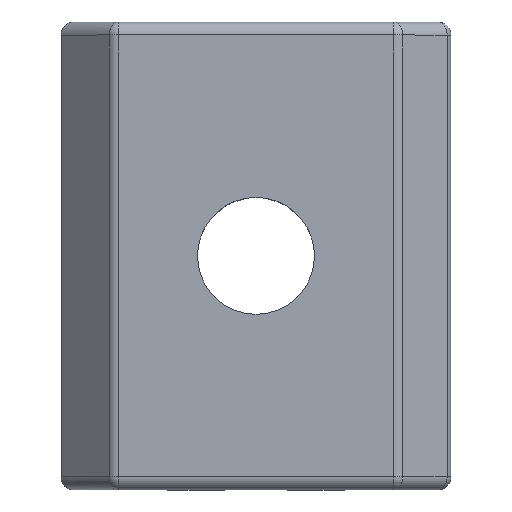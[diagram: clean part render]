
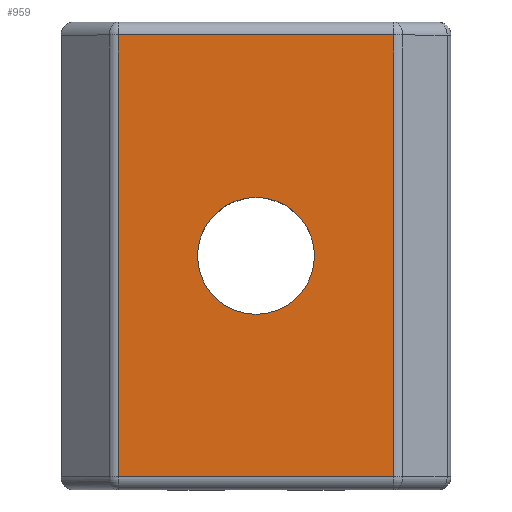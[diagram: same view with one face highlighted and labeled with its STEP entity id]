
A CAD part, top view. The second image highlights one B-rep face of the part: STEP entity #959.
In plain terms, the highlighted planar face has unit normal (0, 0, 1).
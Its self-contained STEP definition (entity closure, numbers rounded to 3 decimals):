
#15 = CARTESIAN_POINT ( 'NONE',  ( -1.6, -0.5, 1.528 ) ) ;
#34 = EDGE_LOOP ( 'NONE', ( #343, #93 ) ) ;
#48 = CARTESIAN_POINT ( 'NONE',  ( 6.15, -9., 1.528 ) ) ;
#92 = VERTEX_POINT ( 'NONE', #2165 ) ;
#93 = ORIENTED_EDGE ( 'NONE', *, *, #1110, .T. ) ;
#122 = DIRECTION ( 'NONE',  ( 1., 0., 0. ) ) ;
#191 = DIRECTION ( 'NONE',  ( 0., 0., 1. ) ) ;
#200 = CARTESIAN_POINT ( 'NONE',  ( 9.193, -18., 1.528 ) ) ;
#244 = VECTOR ( 'NONE', #713, 1000. ) ;
#343 = ORIENTED_EDGE ( 'NONE', *, *, #1506, .T. ) ;
#357 = LINE ( 'NONE', #915, #244 ) ;
#378 = VERTEX_POINT ( 'NONE', #1752 ) ;
#489 = EDGE_CURVE ( 'NONE', #652, #92, #357, .T. ) ;
#526 = CARTESIAN_POINT ( 'NONE',  ( -1.6, -18., 1.528 ) ) ;
#530 = ORIENTED_EDGE ( 'NONE', *, *, #1889, .T. ) ;
#547 = LINE ( 'NONE', #1560, #1799 ) ;
#563 = EDGE_CURVE ( 'NONE', #378, #1758, #1804, .T. ) ;
#599 = AXIS2_PLACEMENT_3D ( 'NONE', #663, #830, #122 ) ;
#652 = VERTEX_POINT ( 'NONE', #1374 ) ;
#663 = CARTESIAN_POINT ( 'NONE',  ( 3.9, -9., 1.528 ) ) ;
#681 = CARTESIAN_POINT ( 'NONE',  ( -1.393, -0.5, 1.528 ) ) ;
#713 = DIRECTION ( 'NONE',  ( 1., 0., 0. ) ) ;
#802 = ORIENTED_EDGE ( 'NONE', *, *, #1185, .T. ) ;
#830 = DIRECTION ( 'NONE',  ( 0., 0., -1. ) ) ;
#915 = CARTESIAN_POINT ( 'NONE',  ( -1.6, -17.5, 1.528 ) ) ;
#956 = DIRECTION ( 'NONE',  ( 0., 1., 0. ) ) ;
#959 = ADVANCED_FACE ( 'NONE', ( #1684, #1000 ), #1098, .T. ) ;
#1000 = FACE_BOUND ( 'NONE', #34, .T. ) ;
#1046 = CARTESIAN_POINT ( 'NONE',  ( 1.65, -9., 1.528 ) ) ;
#1076 = ORIENTED_EDGE ( 'NONE', *, *, #489, .T. ) ;
#1096 = DIRECTION ( 'NONE',  ( -1., 0., 0. ) ) ;
#1098 = PLANE ( 'NONE',  #2114 ) ;
#1110 = EDGE_CURVE ( 'NONE', #1986, #2138, #1502, .T. ) ;
#1131 = CARTESIAN_POINT ( 'NONE',  ( 3.9, -9., 1.528 ) ) ;
#1185 = EDGE_CURVE ( 'NONE', #1758, #652, #547, .T. ) ;
#1346 = VECTOR ( 'NONE', #1096, 1000. ) ;
#1374 = CARTESIAN_POINT ( 'NONE',  ( -1.393, -17.5, 1.528 ) ) ;
#1502 = CIRCLE ( 'NONE', #599, 2.25 ) ;
#1506 = EDGE_CURVE ( 'NONE', #2138, #1986, #2060, .T. ) ;
#1560 = CARTESIAN_POINT ( 'NONE',  ( -1.393, -18., 1.528 ) ) ;
#1605 = DIRECTION ( 'NONE',  ( 1., 0., 0. ) ) ;
#1640 = DIRECTION ( 'NONE',  ( 1., 0., 0. ) ) ;
#1684 = FACE_OUTER_BOUND ( 'NONE', #1991, .T. ) ;
#1752 = CARTESIAN_POINT ( 'NONE',  ( 9.193, -0.5, 1.528 ) ) ;
#1758 = VERTEX_POINT ( 'NONE', #681 ) ;
#1784 = ORIENTED_EDGE ( 'NONE', *, *, #563, .T. ) ;
#1796 = VECTOR ( 'NONE', #956, 1000. ) ;
#1799 = VECTOR ( 'NONE', #2271, 1000. ) ;
#1804 = LINE ( 'NONE', #15, #1346 ) ;
#1833 = DIRECTION ( 'NONE',  ( 0., 0., -1. ) ) ;
#1889 = EDGE_CURVE ( 'NONE', #92, #378, #2057, .T. ) ;
#1986 = VERTEX_POINT ( 'NONE', #48 ) ;
#1991 = EDGE_LOOP ( 'NONE', ( #1076, #530, #1784, #802 ) ) ;
#2057 = LINE ( 'NONE', #200, #1796 ) ;
#2060 = CIRCLE ( 'NONE', #2145, 2.25 ) ;
#2114 = AXIS2_PLACEMENT_3D ( 'NONE', #526, #191, #1605 ) ;
#2138 = VERTEX_POINT ( 'NONE', #1046 ) ;
#2145 = AXIS2_PLACEMENT_3D ( 'NONE', #1131, #1833, #1640 ) ;
#2165 = CARTESIAN_POINT ( 'NONE',  ( 9.193, -17.5, 1.528 ) ) ;
#2271 = DIRECTION ( 'NONE',  ( 0., -1., 0. ) ) ;
